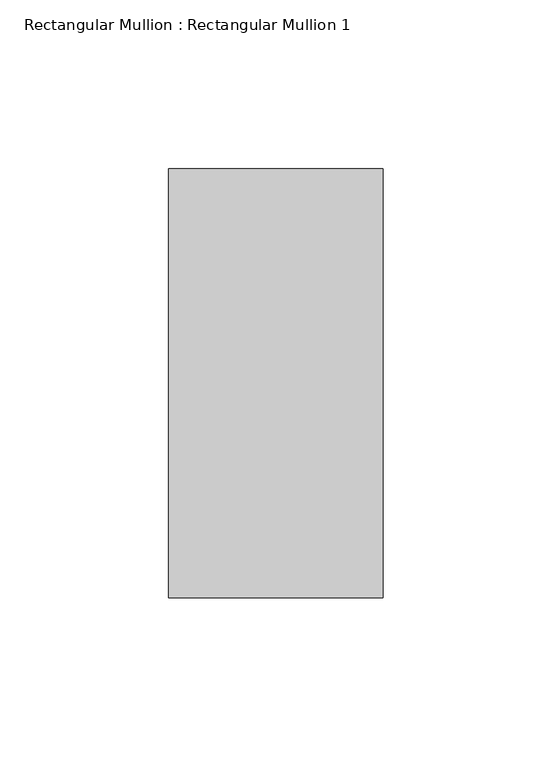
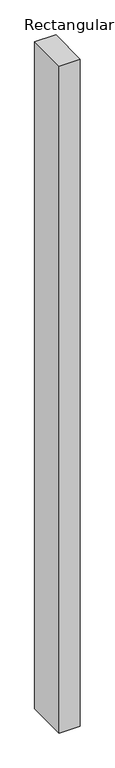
"""IFC4 building model written with IfcOpenShell, lengths in millimetres: member geometry, Rectangular Mullion : Rectangular Mullion 1."""

from ifc_helpers import new_model, si_unit, frame, origin, place, context, project, spatial, polyline, outline, extrude, source, transform, mapped, element, save


def rectangular_mullion_rectangular_mullion_1_eea3e301(model_context):
    return source(origin(), model_context, "Body", "SweptSolid", [
        extrude(outline(polyline([(31.75, 63.5), (31.75, -63.5), (-31.75, -63.5), (-31.75, 63.5), (31.75, 63.5)])), frame((0.0, 0.0, -2116.8895886), z_axis=(0.0, 0.0, 1.0), x_axis=(1.0, 0.0, 0.0)), (0.0, 0.0, 1.0), 2116.8895886),
    ])


if __name__ == "__main__":
    model = new_model("IFC4")
    model_context = context("Model", 3, world=origin())
    ifc_project = project(units=[si_unit("LENGTHUNIT", "METRE", prefix="MILLI")], contexts=[model_context])
    site = spatial("IfcSite", under=ifc_project)
    building = spatial("IfcBuilding", under=site)
    placement = place(None, origin())
    rectangular_mullion_rectangular_mullion_1_shape = rectangular_mullion_rectangular_mullion_1_eea3e301(model_context)
    element("IfcMember", 1, ObjectType="Rectangular Mullion : Rectangular Mullion 1", at=placement, inside=building, context=model_context, shape_type="MappedRepresentation", body=[
        mapped(rectangular_mullion_rectangular_mullion_1_shape, transform((0.0, 0.0, 0.0), x_axis=(1.0, 0.0, 0.0), y_axis=(0.0, 1.0, 0.0), z_axis=(0.0, 0.0, 1.0))),
    ])
    save(model, "model.ifc")
